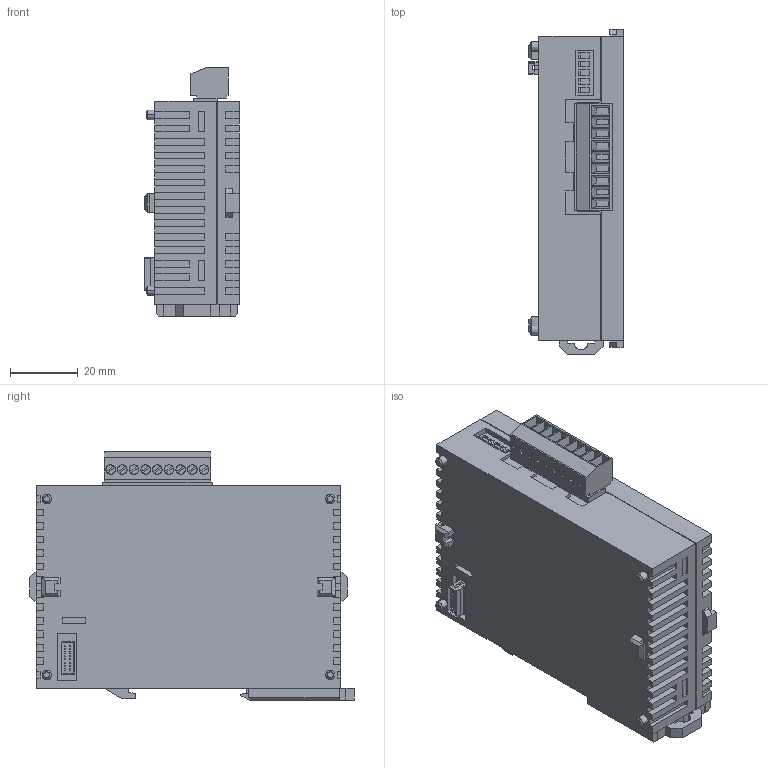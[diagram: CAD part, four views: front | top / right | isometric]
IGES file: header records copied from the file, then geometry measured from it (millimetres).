
Global section: organization: PanasonicElectricWorks; date: 080828.133537; units: millimetre
Bounding box: 28 x 96.05 x 73.45 mm (x, y, z)
Surface area: 24413.3 mm2 (no closed solid volume)
Topology: 0 solids, 0 shells, 775 faces, 5335 edges, 5333 vertices
Faces by surface type: bspline 716, revolution 59
